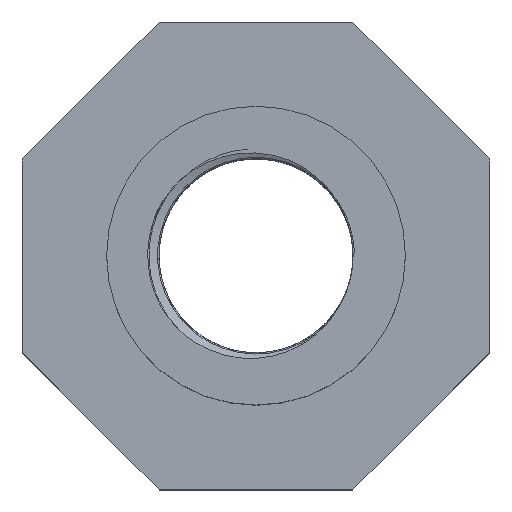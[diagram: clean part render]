
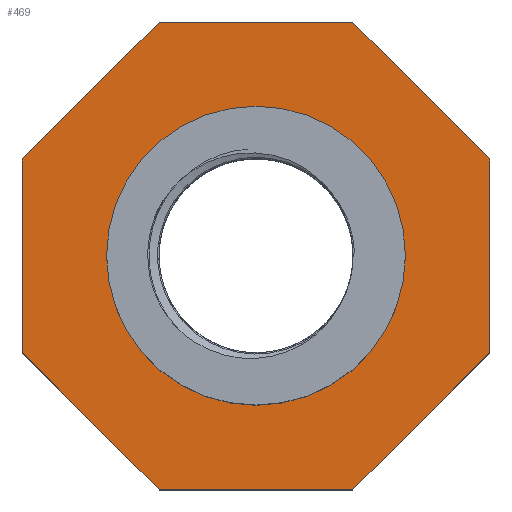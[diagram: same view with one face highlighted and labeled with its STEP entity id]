
A CAD part, top view. The second image highlights one B-rep face of the part: STEP entity #469.
In plain terms, the highlighted planar face has unit normal (0, 0, 1).
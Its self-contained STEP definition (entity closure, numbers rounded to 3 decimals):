
#16=FACE_BOUND('',#107,.T.);
#38=PLANE('',#497);
#49=CIRCLE('',#498,11.5);
#76=FACE_OUTER_BOUND('',#106,.T.);
#106=EDGE_LOOP('',(#411,#412,#413,#414,#415,#416,#417,#418));
#107=EDGE_LOOP('',(#419));
#126=LINE('',#7077,#156);
#130=LINE('',#7085,#160);
#133=LINE('',#7091,#163);
#136=LINE('',#7097,#166);
#139=LINE('',#7103,#169);
#142=LINE('',#7109,#172);
#145=LINE('',#7115,#175);
#148=LINE('',#7120,#178);
#156=VECTOR('',#539,14.912);
#160=VECTOR('',#545,14.912);
#163=VECTOR('',#550,14.912);
#166=VECTOR('',#555,14.912);
#169=VECTOR('',#560,14.912);
#172=VECTOR('',#565,14.912);
#175=VECTOR('',#570,14.912);
#178=VECTOR('',#575,14.912);
#224=VERTEX_POINT('',#7075);
#225=VERTEX_POINT('',#7076);
#228=VERTEX_POINT('',#7084);
#230=VERTEX_POINT('',#7090);
#232=VERTEX_POINT('',#7096);
#234=VERTEX_POINT('',#7102);
#236=VERTEX_POINT('',#7108);
#238=VERTEX_POINT('',#7114);
#240=VERTEX_POINT('',#7124);
#280=EDGE_CURVE('',#224,#225,#126,.T.);
#284=EDGE_CURVE('',#228,#224,#130,.T.);
#287=EDGE_CURVE('',#230,#228,#133,.T.);
#290=EDGE_CURVE('',#232,#230,#136,.T.);
#293=EDGE_CURVE('',#234,#232,#139,.T.);
#296=EDGE_CURVE('',#236,#234,#142,.T.);
#299=EDGE_CURVE('',#238,#236,#145,.T.);
#302=EDGE_CURVE('',#225,#238,#148,.T.);
#304=EDGE_CURVE('',#240,#240,#49,.T.);
#411=ORIENTED_EDGE('',*,*,#302,.F.);
#412=ORIENTED_EDGE('',*,*,#280,.F.);
#413=ORIENTED_EDGE('',*,*,#284,.F.);
#414=ORIENTED_EDGE('',*,*,#287,.F.);
#415=ORIENTED_EDGE('',*,*,#290,.F.);
#416=ORIENTED_EDGE('',*,*,#293,.F.);
#417=ORIENTED_EDGE('',*,*,#296,.F.);
#418=ORIENTED_EDGE('',*,*,#299,.F.);
#419=ORIENTED_EDGE('',*,*,#304,.F.);
#469=ADVANCED_FACE('',(#76,#16),#38,.T.);
#497=AXIS2_PLACEMENT_3D('',#7123,#579,#580);
#498=AXIS2_PLACEMENT_3D('',#7125,#581,#582);
#539=DIRECTION('',(1.,0.,0.));
#545=DIRECTION('',(0.707,0.707,0.));
#550=DIRECTION('',(0.,1.,0.));
#555=DIRECTION('',(-0.707,0.707,0.));
#560=DIRECTION('',(-1.,0.,0.));
#565=DIRECTION('',(-0.707,-0.707,0.));
#570=DIRECTION('',(0.,-1.,0.));
#575=DIRECTION('',(0.707,-0.707,0.));
#579=DIRECTION('center_axis',(0.,0.,1.));
#580=DIRECTION('ref_axis',(1.,0.,0.));
#581=DIRECTION('center_axis',(0.,0.,1.));
#582=DIRECTION('ref_axis',(1.,0.,0.));
#7075=CARTESIAN_POINT('',(-7.456,18.,30.));
#7076=CARTESIAN_POINT('',(7.456,18.,30.));
#7077=CARTESIAN_POINT('',(-7.456,18.,30.));
#7084=CARTESIAN_POINT('',(-18.,7.456,30.));
#7085=CARTESIAN_POINT('',(-18.,7.456,30.));
#7090=CARTESIAN_POINT('',(-18.,-7.456,30.));
#7091=CARTESIAN_POINT('',(-18.,-7.456,30.));
#7096=CARTESIAN_POINT('',(-7.456,-18.,30.));
#7097=CARTESIAN_POINT('',(-7.456,-18.,30.));
#7102=CARTESIAN_POINT('',(7.456,-18.,30.));
#7103=CARTESIAN_POINT('',(7.456,-18.,30.));
#7108=CARTESIAN_POINT('',(18.,-7.456,30.));
#7109=CARTESIAN_POINT('',(18.,-7.456,30.));
#7114=CARTESIAN_POINT('',(18.,7.456,30.));
#7115=CARTESIAN_POINT('',(18.,7.456,30.));
#7120=CARTESIAN_POINT('',(7.456,18.,30.));
#7123=CARTESIAN_POINT('Origin',(11.5,0.,30.));
#7124=CARTESIAN_POINT('',(11.5,0.,30.));
#7125=CARTESIAN_POINT('Origin',(0.,0.,30.));
